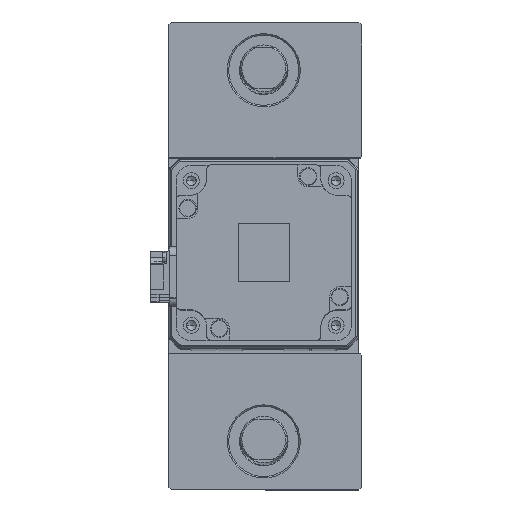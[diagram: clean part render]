
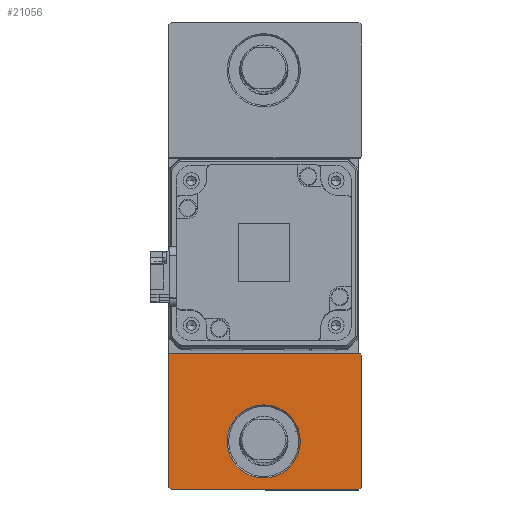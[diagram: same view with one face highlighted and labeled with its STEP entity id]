
A CAD part, top view. The second image highlights one B-rep face of the part: STEP entity #21056.
In plain terms, the highlighted planar face has unit normal (0, 0, 1).
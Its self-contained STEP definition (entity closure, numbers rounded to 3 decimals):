
#88 = AXIS2_PLACEMENT_3D ( 'NONE', #10106, #30721, #13103 ) ;
#1232 = CARTESIAN_POINT ( 'NONE',  ( 12.5, -63.5, 25. ) ) ;
#1764 = EDGE_CURVE ( 'NONE', #29955, #12856, #37041, .T. ) ;
#2546 = CARTESIAN_POINT ( 'NONE',  ( -32.5, -33.5, 25. ) ) ;
#2813 = DIRECTION ( 'NONE',  ( 1., 0., 0. ) ) ;
#3487 = ORIENTED_EDGE ( 'NONE', *, *, #14477, .T. ) ;
#3559 = VERTEX_POINT ( 'NONE', #30065 ) ;
#3787 = VERTEX_POINT ( 'NONE', #10588 ) ;
#4369 = VERTEX_POINT ( 'NONE', #36535 ) ;
#4472 = CARTESIAN_POINT ( 'NONE',  ( 33.5, -34., 25. ) ) ;
#4530 = CARTESIAN_POINT ( 'NONE',  ( 0., 0., 25. ) ) ;
#4703 = CARTESIAN_POINT ( 'NONE',  ( -31.5, -80., 25. ) ) ;
#4776 = ORIENTED_EDGE ( 'NONE', *, *, #17750, .T. ) ;
#4777 = VERTEX_POINT ( 'NONE', #10682 ) ;
#5701 = VECTOR ( 'NONE', #14680, 1000. ) ;
#6050 = CARTESIAN_POINT ( 'NONE',  ( -32.5, -33.5, 25. ) ) ;
#6605 = DIRECTION ( 'NONE',  ( 0.707, 0.707, 0. ) ) ;
#6645 = VERTEX_POINT ( 'NONE', #1232 ) ;
#7758 = EDGE_CURVE ( 'NONE', #3787, #29955, #9892, .T. ) ;
#9480 = CIRCLE ( 'NONE', #88, 12.5 ) ;
#9892 = LINE ( 'NONE', #13625, #14971 ) ;
#10097 = CARTESIAN_POINT ( 'NONE',  ( -32.5, -80., 25. ) ) ;
#10106 = CARTESIAN_POINT ( 'NONE',  ( 0., -63.5, 25. ) ) ;
#10218 = FACE_OUTER_BOUND ( 'NONE', #26485, .T. ) ;
#10538 = DIRECTION ( 'NONE',  ( 0., 0., 1. ) ) ;
#10588 = CARTESIAN_POINT ( 'NONE',  ( 33.5, -79., 25. ) ) ;
#10682 = CARTESIAN_POINT ( 'NONE',  ( -32.5, -79., 25. ) ) ;
#11418 = LINE ( 'NONE', #27276, #18391 ) ;
#12332 = CARTESIAN_POINT ( 'NONE',  ( -55.75, -55.75, 25. ) ) ;
#12856 = VERTEX_POINT ( 'NONE', #33179 ) ;
#13103 = DIRECTION ( 'NONE',  ( 1., 0., 0. ) ) ;
#13625 = CARTESIAN_POINT ( 'NONE',  ( 33.5, -33.5, 25. ) ) ;
#13673 = VECTOR ( 'NONE', #17410, 1000. ) ;
#13739 = EDGE_CURVE ( 'NONE', #4369, #3787, #11418, .T. ) ;
#14477 = EDGE_CURVE ( 'NONE', #4777, #36216, #30710, .T. ) ;
#14607 = EDGE_CURVE ( 'NONE', #6645, #3559, #9480, .T. ) ;
#14680 = DIRECTION ( 'NONE',  ( -0.707, 0.707, 0. ) ) ;
#14971 = VECTOR ( 'NONE', #22502, 1000. ) ;
#15004 = ORIENTED_EDGE ( 'NONE', *, *, #29534, .T. ) ;
#15463 = EDGE_LOOP ( 'NONE', ( #26535, #15004 ) ) ;
#17177 = ORIENTED_EDGE ( 'NONE', *, *, #7758, .T. ) ;
#17410 = DIRECTION ( 'NONE',  ( 0., -1., 0. ) ) ;
#17750 = EDGE_CURVE ( 'NONE', #36216, #4369, #29504, .T. ) ;
#18391 = VECTOR ( 'NONE', #6605, 1000. ) ;
#19028 = DIRECTION ( 'NONE',  ( 1., 0., 0. ) ) ;
#20077 = ORIENTED_EDGE ( 'NONE', *, *, #24338, .T. ) ;
#20432 = CIRCLE ( 'NONE', #21929, 12.5 ) ;
#20583 = DIRECTION ( 'NONE',  ( 0., 0., -1. ) ) ;
#20939 = DIRECTION ( 'NONE',  ( -1., 0., 0. ) ) ;
#21056 = ADVANCED_FACE ( 'NONE', ( #32804, #10218 ), #28192, .T. ) ;
#21656 = VECTOR ( 'NONE', #19028, 1000. ) ;
#21929 = AXIS2_PLACEMENT_3D ( 'NONE', #38140, #20583, #2813 ) ;
#22176 = ORIENTED_EDGE ( 'NONE', *, *, #13739, .T. ) ;
#22502 = DIRECTION ( 'NONE',  ( 0., 1., 0. ) ) ;
#24338 = EDGE_CURVE ( 'NONE', #27436, #4777, #28414, .T. ) ;
#26304 = EDGE_CURVE ( 'NONE', #12856, #27436, #30774, .T. ) ;
#26485 = EDGE_LOOP ( 'NONE', ( #4776, #22176, #17177, #33681, #30246, #20077, #3487 ) ) ;
#26535 = ORIENTED_EDGE ( 'NONE', *, *, #14607, .T. ) ;
#27031 = CARTESIAN_POINT ( 'NONE',  ( -32.5, -33.5, 25. ) ) ;
#27276 = CARTESIAN_POINT ( 'NONE',  ( 56.25, -56.25, 25. ) ) ;
#27436 = VERTEX_POINT ( 'NONE', #27031 ) ;
#28192 = PLANE ( 'NONE',  #29932 ) ;
#28414 = LINE ( 'NONE', #2546, #13673 ) ;
#29504 = LINE ( 'NONE', #10097, #21656 ) ;
#29534 = EDGE_CURVE ( 'NONE', #3559, #6645, #20432, .T. ) ;
#29932 = AXIS2_PLACEMENT_3D ( 'NONE', #4530, #10538, #31151 ) ;
#29955 = VERTEX_POINT ( 'NONE', #4472 ) ;
#29962 = DIRECTION ( 'NONE',  ( 0.707, -0.707, 0. ) ) ;
#30065 = CARTESIAN_POINT ( 'NONE',  ( -12.5, -63.5, 25. ) ) ;
#30246 = ORIENTED_EDGE ( 'NONE', *, *, #26304, .T. ) ;
#30710 = LINE ( 'NONE', #12332, #36635 ) ;
#30721 = DIRECTION ( 'NONE',  ( 0., 0., -1. ) ) ;
#30774 = LINE ( 'NONE', #6050, #37616 ) ;
#31151 = DIRECTION ( 'NONE',  ( 1., 0., 0. ) ) ;
#32443 = CARTESIAN_POINT ( 'NONE',  ( -0.25, -0.25, 25. ) ) ;
#32804 = FACE_BOUND ( 'NONE', #15463, .T. ) ;
#33179 = CARTESIAN_POINT ( 'NONE',  ( 33., -33.5, 25. ) ) ;
#33681 = ORIENTED_EDGE ( 'NONE', *, *, #1764, .T. ) ;
#36216 = VERTEX_POINT ( 'NONE', #4703 ) ;
#36535 = CARTESIAN_POINT ( 'NONE',  ( 32.5, -80., 25. ) ) ;
#36635 = VECTOR ( 'NONE', #29962, 1000. ) ;
#37041 = LINE ( 'NONE', #32443, #5701 ) ;
#37616 = VECTOR ( 'NONE', #20939, 1000. ) ;
#38140 = CARTESIAN_POINT ( 'NONE',  ( 0., -63.5, 25. ) ) ;
